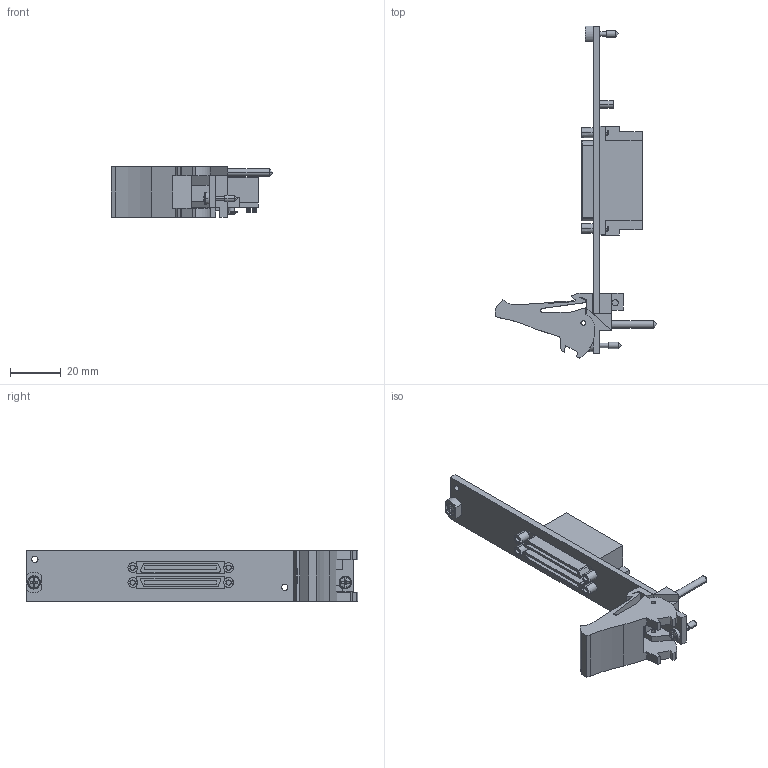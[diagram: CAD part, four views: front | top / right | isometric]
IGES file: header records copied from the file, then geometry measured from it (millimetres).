
Start section:  PTC IGES file: cu_pxie-8431_16.igs
Global section: file name: cu_pxie-8431_16.igs; native system: Creo Parametric by PTC Inc.; preprocessor: 2017480; author: HUGyokoG; organization: Unknown; date: 20181031.102424; units: millimetre
Bounding box: 63.53 x 130.5 x 20.02 mm (x, y, z)
Surface area: 15959.1 mm2 (no closed solid volume)
Topology: 0 solids, 0 shells, 488 faces, 2546 edges, 2540 vertices
Faces by surface type: bspline 312, revolution 176
